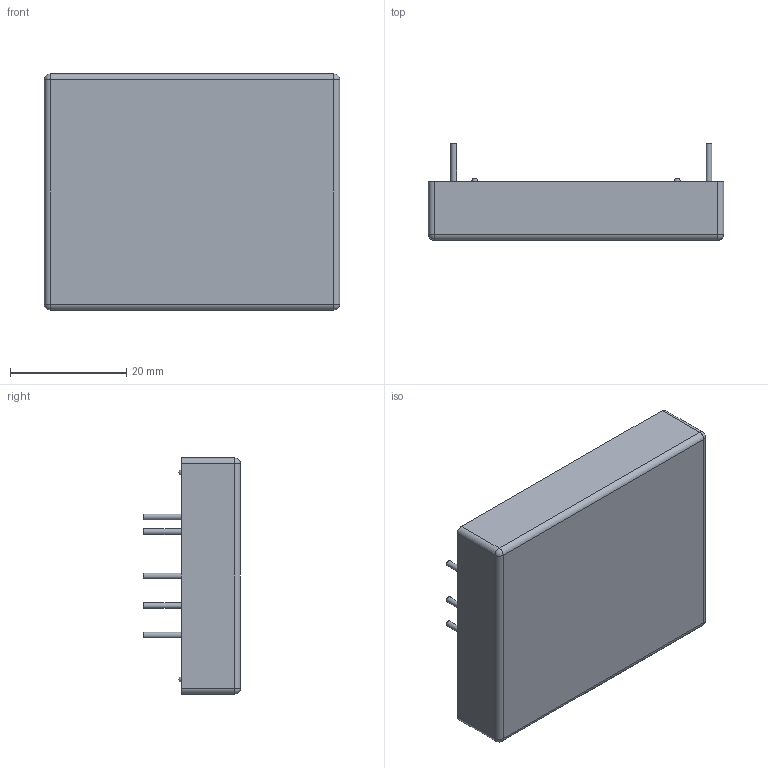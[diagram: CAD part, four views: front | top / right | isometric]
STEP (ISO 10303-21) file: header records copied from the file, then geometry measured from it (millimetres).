
FILE_DESCRIPTION(/* description */ ('Unknown'),/* implementation_level */ '2;1');
FILE_NAME(/* name */ 'RDC40(S)',/* time_stamp */ '2017-11-30T08:22:37+08:00',/* author */ ('Unknown'),/* organization */ ('Unknown'),/* preprocessor_version */ 'ST-DEVELOPER v16.7',/* originating_system */ 'DEX',/* authorisation */ $);
FILE_SCHEMA (('AUTOMOTIVE_DESIGN {1 0 10303 214 3 1 1}'));
Length unit declared in the file: millimetre
Products named in the file (1): RDC40(S)
Bounding box: 50.8 x 16.66 x 40.6 mm (x, y, z)
Volume: 20939.2 mm3; surface area: 6010.5 mm2
Topology: 1 solids, 1 shells, 34 faces, 74 edges, 40 vertices
Faces by surface type: cylinder 14, plane 12, sphere 8
Full cylindrical faces by diameter (mm): 1 x6
Entity records: 810 total; most frequent: DIRECTION 154, CARTESIAN_POINT 123, ORIENTED_EDGE 104, AXIS2_PLACEMENT_3D 67, EDGE_CURVE 52, EDGE_LOOP 50, FACE_BOUND 50, VERTEX_POINT 36
